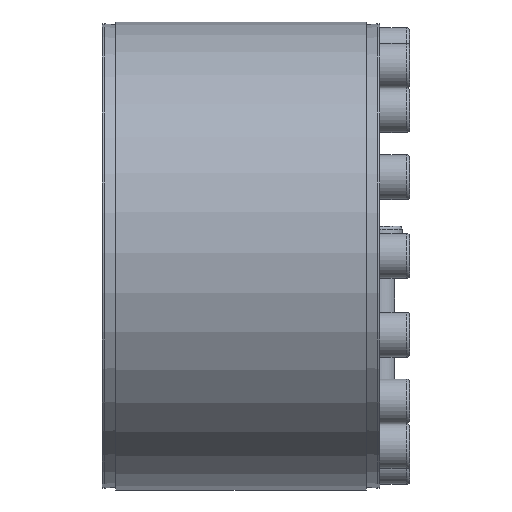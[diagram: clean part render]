
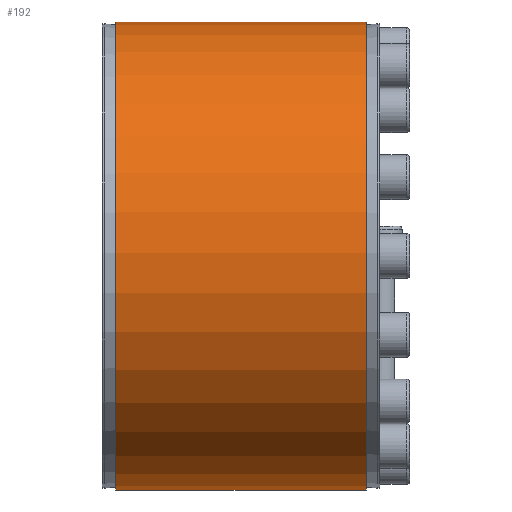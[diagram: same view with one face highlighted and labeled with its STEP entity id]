
A CAD part, left-side view. The second image highlights one B-rep face of the part: STEP entity #192.
In plain terms, the highlighted cylindrical face has radius 125 mm (diameter 250 mm), a partial arc.
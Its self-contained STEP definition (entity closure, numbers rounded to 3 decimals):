
#192 = ADVANCED_FACE( '', ( #501 ), #502, .T. );
#501 = FACE_OUTER_BOUND( '', #895, .T. );
#502 = CYLINDRICAL_SURFACE( '', #896, 125. );
#895 = EDGE_LOOP( '', ( #1452, #1453, #1454, #1455 ) );
#896 = AXIS2_PLACEMENT_3D( '', #1456, #1457, #1458 );
#1452 = ORIENTED_EDGE( '', *, *, #1748, .F. );
#1453 = ORIENTED_EDGE( '', *, *, #1812, .T. );
#1454 = ORIENTED_EDGE( '', *, *, #1911, .F. );
#1455 = ORIENTED_EDGE( '', *, *, #1861, .F. );
#1456 = CARTESIAN_POINT( '', ( 0., -60., 0. ) );
#1457 = DIRECTION( '', ( 0., 1., 0. ) );
#1458 = DIRECTION( '', ( 0., 0., -1. ) );
#1748 = EDGE_CURVE( '', #2037, #2039, #2040, .T. );
#1812 = EDGE_CURVE( '', #2037, #2143, #2145, .T. );
#1861 = EDGE_CURVE( '', #2039, #2231, #2232, .T. );
#1911 = EDGE_CURVE( '', #2231, #2143, #2312, .F. );
#2037 = VERTEX_POINT( '', #2548 );
#2039 = VERTEX_POINT( '', #2551 );
#2040 = LINE( '', #2552, #2553 );
#2143 = VERTEX_POINT( '', #2667 );
#2145 = CIRCLE( '', #2670, 125. );
#2231 = VERTEX_POINT( '', #2761 );
#2232 = CIRCLE( '', #2762, 125. );
#2312 = LINE( '', #2848, #2849 );
#2548 = CARTESIAN_POINT( '', ( 22.422, 141., 122.973 ) );
#2551 = CARTESIAN_POINT( '', ( 22.422, 7., 122.973 ) );
#2552 = CARTESIAN_POINT( '', ( 22.422, -60., 122.973 ) );
#2553 = VECTOR( '', #2955, 1000. );
#2667 = CARTESIAN_POINT( '', ( 26.345, 141., 122.192 ) );
#2670 = AXIS2_PLACEMENT_3D( '', #3070, #3071, #3072 );
#2761 = CARTESIAN_POINT( '', ( 26.345, 7., 122.192 ) );
#2762 = AXIS2_PLACEMENT_3D( '', #3186, #3187, #3188 );
#2848 = CARTESIAN_POINT( '', ( 26.345, -60., 122.192 ) );
#2849 = VECTOR( '', #3282, 1000. );
#2955 = DIRECTION( '', ( 0., -1., 0. ) );
#3070 = CARTESIAN_POINT( '', ( 0., 141., 0. ) );
#3071 = DIRECTION( '', ( 0., -1., 0. ) );
#3072 = DIRECTION( '', ( 0., 0., -1. ) );
#3186 = CARTESIAN_POINT( '', ( 0., 7., 0. ) );
#3187 = DIRECTION( '', ( 0., -1., 0. ) );
#3188 = DIRECTION( '', ( 0., 0., -1. ) );
#3282 = DIRECTION( '', ( 0., -1., 0. ) );
